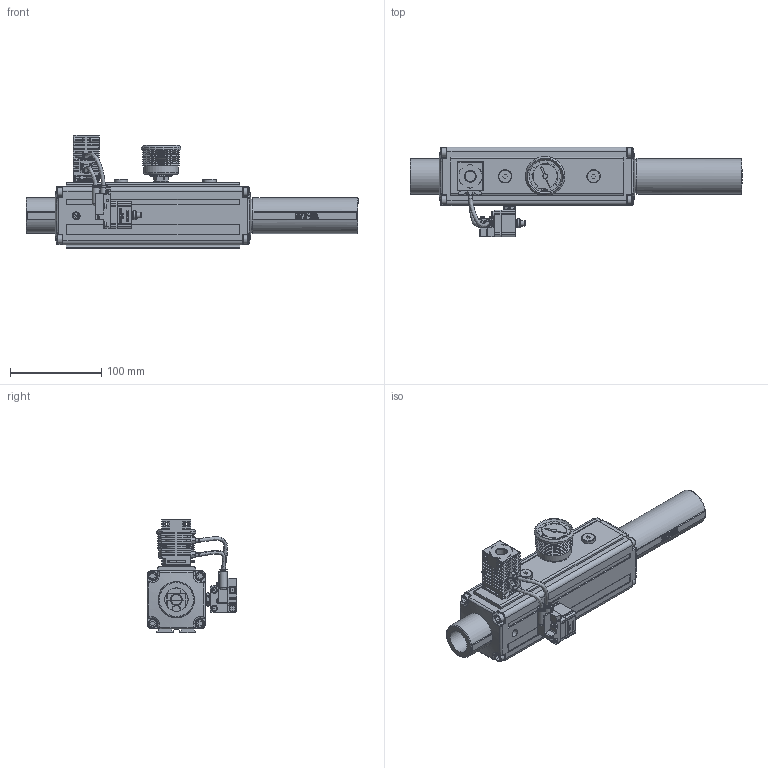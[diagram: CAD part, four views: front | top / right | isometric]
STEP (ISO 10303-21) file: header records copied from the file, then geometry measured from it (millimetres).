
FILE_DESCRIPTION( ( 'Unknown' ), '1' );
FILE_NAME( 'C:/Documents and Settings/茄惫春概平/官帕 拳搁/2010 VMECA 3D CAD/Vacuum Pumps/PM-Pump/A-Type/PM(L)303X( ) A - 01 - AS.stp', 'Unknown', ( 'Unknown' ), ( 'Unknown' ), 'PSStep 10.0', 'Unknown', ' ' );
FILE_SCHEMA( ( 'automotive_design' ) );
Length unit declared in the file: millimetre
Products named in the file (9): Assem1; 1_0; VTS-01; VMS14_AS_PT14; Double Tread 18M-18M; VPS-01; AS_1; AS_2; VTG-18
Bounding box: 363.6 x 98.3 x 124 mm (x, y, z)
Volume: 1320992.8 mm3; surface area: 502392.7 mm2
Topology: 16 solids, 78 shells, 5396 faces, 14160 edges, 9228 vertices
Faces by surface type: plane 3402, cylinder 1312, cone 322, extrusion 138, bspline 118, torus 96, revolution 8
Full cylindrical faces by diameter (mm): 0.518 x2, 0.701 x4, 1 x8, 1.158 x2, 1.4 x4, 2.2 x4, 2.3 x2, 2.4 x4, 2.5 x4, 3 x8, 3.2 x4, 3.3 x4, 3.4 x16, 4 x4, 4.134 x16, 4.2 x16, 4.336 x2, 5 x8, 5.2 x4, 6 x22, 6.064 x2, 6.5 x16, 6.8 x4, 7 x8, 7.936 x2, 8 x8, 8.566 x8, 8.8 x2, 9 x2, 9.6 x2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
Entity records: 95267 total; most frequent: CARTESIAN_POINT 24656, ORIENTED_EDGE 13214, DIRECTION 12907, EDGE_CURVE 6607, VECTOR 4639, LINE 4570, VERTEX_POINT 4469, AXIS2_PLACEMENT_3D 4132
